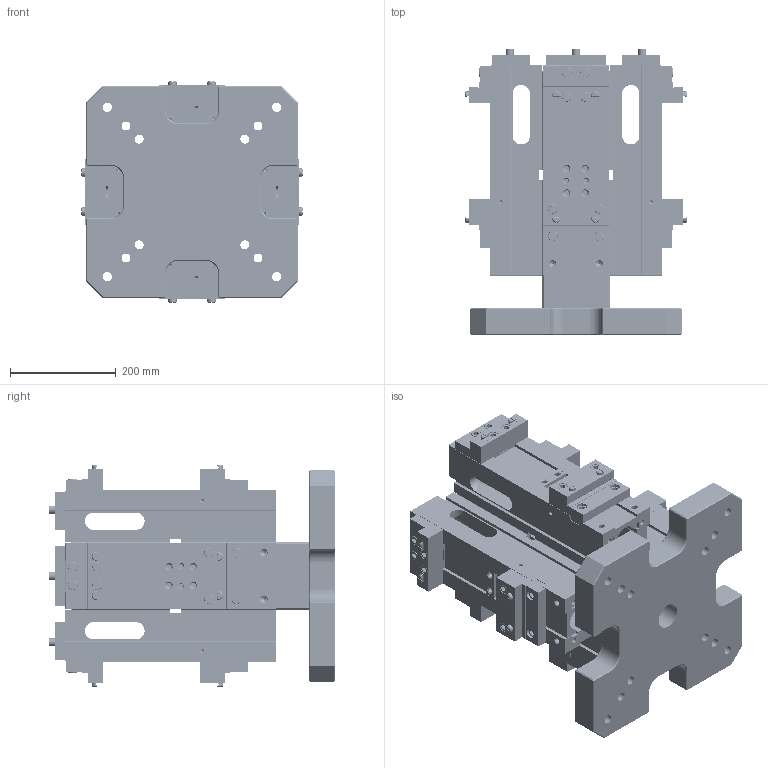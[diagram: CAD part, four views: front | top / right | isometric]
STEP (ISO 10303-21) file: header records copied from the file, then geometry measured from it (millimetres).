
FILE_DESCRIPTION((''),'2;1');
FILE_NAME('FG_WH_TOMB_SQURENP001_ASM','2026-06-12T15:44:33',('Admin'),(''),'CREO PARAMETRIC BY PTC INC, 2025010','CREO PARAMETRIC BY PTC INC, 2025010','');
FILE_SCHEMA(('CONFIG_CONTROL_DESIGN'));
Products named in the file (12): FG_WH_TOMB_SQURENP001; FIX_JAW_TITAN125_3; DIN912-M12X45-12_9; DIN912-M12X25-12_9; FASE_0_2X450_1; _8078202012200_-_ROTATION1__1; 6921884036000_1_ASM_1_ASM; FIX_JAW_SC_ASM; MOVABLE_JAW_LC125_2; 6921884036000_ASM_1_ASM; MOVABLE_JAW_SC_ASM; FG_WH_TOMB_SQURENP001_ASM
Assembly tree (26 placements, depth 5):
  FG_WH_TOMB_SQURENP001_ASM
    FG_WH_TOMB_SQURENP001
    FIX_JAW_SC_ASM  x4
      FIX_JAW_TITAN125_3
      DIN912-M12X45-12_9
      DIN912-M12X25-12_9
      6921884036000_1_ASM_1_ASM
        FASE_0_2X450_1
        _8078202012200_-_ROTATION1__1
    MOVABLE_JAW_SC_ASM  x4
      MOVABLE_JAW_LC125_2
      DIN912-M12X25-12_9
      DIN912-M12X45-12_9
      6921884036000_ASM_1_ASM
        6921884036000_1_ASM_1_ASM
          FASE_0_2X450_1
          _8078202012200_-_ROTATION1__1
Bounding box: 420.2 x 541.5 x 420.2 mm (x, y, z)
Volume: 28191298.4 mm3; surface area: 2359989.3 mm2
Topology: 73 solids, 226 shells, 3974 faces, 10408 edges, 6774 vertices
Faces by surface type: plane 1828, cylinder 1304, cone 586, torus 224, bspline 32
Entity records: 81990 total; most frequent: CARTESIAN_POINT 24796, DIRECTION 11767, ORIENTED_EDGE 11568, EDGE_CURVE 6030, AXIS2_PLACEMENT_3D 4158, VERTEX_POINT 4044, VECTOR 3451, LINE 3451
